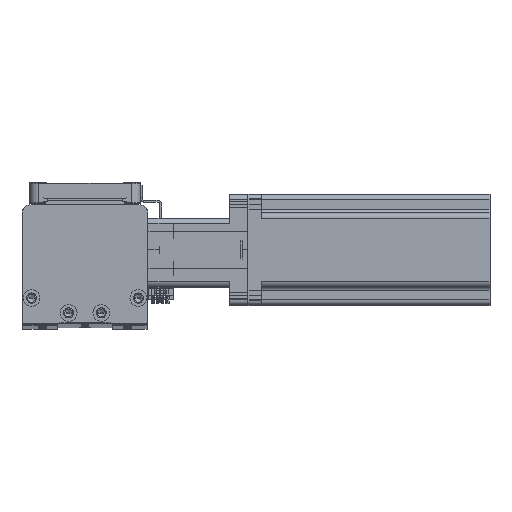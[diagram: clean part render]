
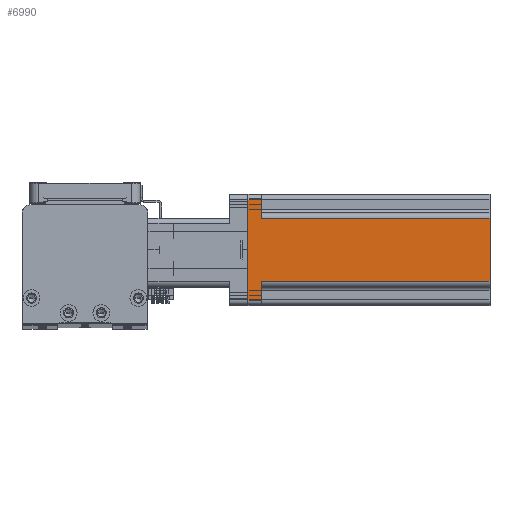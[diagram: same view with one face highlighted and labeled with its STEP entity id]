
A CAD part, top view. The second image highlights one B-rep face of the part: STEP entity #6990.
In plain terms, the highlighted planar face has unit normal (0, 0, 1) as drawn and (1, 0, 0) by its records, which use the part's own axes.
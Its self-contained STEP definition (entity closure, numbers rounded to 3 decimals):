
#543 = CARTESIAN_POINT ( 'NONE',  ( 30., -30., 0. ) ) ;
#794 = DIRECTION ( 'NONE',  ( 0., 0., -1. ) ) ;
#879 = EDGE_CURVE ( 'NONE', #27783, #10276, #29297, .T. ) ;
#897 = DIRECTION ( 'NONE',  ( 0., 0., 1. ) ) ;
#1185 = CARTESIAN_POINT ( 'NONE',  ( 30., -17., 7.5 ) ) ;
#2241 = VECTOR ( 'NONE', #8542, 1000. ) ;
#2499 = ORIENTED_EDGE ( 'NONE', *, *, #21621, .T. ) ;
#4023 = ORIENTED_EDGE ( 'NONE', *, *, #38998, .T. ) ;
#4587 = CARTESIAN_POINT ( 'NONE',  ( 30., 30., 7.5 ) ) ;
#4589 = CARTESIAN_POINT ( 'NONE',  ( 30., -27., 7.5 ) ) ;
#4608 = DIRECTION ( 'NONE',  ( 0., 1., 0. ) ) ;
#4642 = VERTEX_POINT ( 'NONE', #10207 ) ;
#5157 = CARTESIAN_POINT ( 'NONE',  ( 30., -27., 0. ) ) ;
#6990 = ADVANCED_FACE ( 'NONE', ( #20173 ), #31872, .F. ) ;
#7102 = DIRECTION ( 'NONE',  ( 0., -1., 0. ) ) ;
#7521 = VECTOR ( 'NONE', #794, 1000. ) ;
#8542 = DIRECTION ( 'NONE',  ( 0., 1., 0. ) ) ;
#10207 = CARTESIAN_POINT ( 'NONE',  ( 30., -17., 7.5 ) ) ;
#10248 = VERTEX_POINT ( 'NONE', #34967 ) ;
#10276 = VERTEX_POINT ( 'NONE', #19703 ) ;
#10686 = LINE ( 'NONE', #543, #21031 ) ;
#12561 = VERTEX_POINT ( 'NONE', #5157 ) ;
#12964 = LINE ( 'NONE', #49093, #14215 ) ;
#13545 = CARTESIAN_POINT ( 'NONE',  ( 30., 27., 130.7 ) ) ;
#14215 = VECTOR ( 'NONE', #45200, 1000. ) ;
#16503 = VERTEX_POINT ( 'NONE', #49826 ) ;
#17346 = EDGE_CURVE ( 'NONE', #27783, #4642, #29935, .T. ) ;
#17468 = DIRECTION ( 'NONE',  ( 0., 0., 1. ) ) ;
#18994 = VECTOR ( 'NONE', #4608, 1000. ) ;
#19084 = LINE ( 'NONE', #28024, #7521 ) ;
#19703 = CARTESIAN_POINT ( 'NONE',  ( 30., 17., 130.7 ) ) ;
#20173 = FACE_OUTER_BOUND ( 'NONE', #33483, .T. ) ;
#21031 = VECTOR ( 'NONE', #43296, 1000. ) ;
#21519 = CARTESIAN_POINT ( 'NONE',  ( 30., 27., 0. ) ) ;
#21621 = EDGE_CURVE ( 'NONE', #4642, #30724, #31785, .T. ) ;
#22910 = LINE ( 'NONE', #13545, #42397 ) ;
#23881 = VECTOR ( 'NONE', #7102, 1000. ) ;
#24026 = ORIENTED_EDGE ( 'NONE', *, *, #35186, .T. ) ;
#24229 = DIRECTION ( 'NONE',  ( -1., 0., 0. ) ) ;
#24519 = DIRECTION ( 'NONE',  ( 0., 0., -1. ) ) ;
#25216 = ORIENTED_EDGE ( 'NONE', *, *, #17346, .T. ) ;
#27783 = VERTEX_POINT ( 'NONE', #33105 ) ;
#27890 = CARTESIAN_POINT ( 'NONE',  ( 30., -30., 130.7 ) ) ;
#28024 = CARTESIAN_POINT ( 'NONE',  ( 30., -27., 130.7 ) ) ;
#29203 = ORIENTED_EDGE ( 'NONE', *, *, #42096, .F. ) ;
#29297 = LINE ( 'NONE', #27890, #18994 ) ;
#29935 = LINE ( 'NONE', #1185, #40332 ) ;
#30090 = EDGE_CURVE ( 'NONE', #12561, #43808, #10686, .T. ) ;
#30724 = VERTEX_POINT ( 'NONE', #4589 ) ;
#31749 = ORIENTED_EDGE ( 'NONE', *, *, #30090, .T. ) ;
#31785 = LINE ( 'NONE', #38208, #23881 ) ;
#31872 = PLANE ( 'NONE',  #33587 ) ;
#33105 = CARTESIAN_POINT ( 'NONE',  ( 30., -17., 130.7 ) ) ;
#33483 = EDGE_LOOP ( 'NONE', ( #44362, #25216, #2499, #4023, #31749, #24026, #29203, #46277 ) ) ;
#33587 = AXIS2_PLACEMENT_3D ( 'NONE', #47602, #24229, #897 ) ;
#34550 = LINE ( 'NONE', #4587, #2241 ) ;
#34967 = CARTESIAN_POINT ( 'NONE',  ( 30., 17., 7.5 ) ) ;
#35186 = EDGE_CURVE ( 'NONE', #43808, #16503, #22910, .T. ) ;
#38208 = CARTESIAN_POINT ( 'NONE',  ( 30., -30., 7.5 ) ) ;
#38998 = EDGE_CURVE ( 'NONE', #30724, #12561, #19084, .T. ) ;
#40332 = VECTOR ( 'NONE', #24519, 1000. ) ;
#42096 = EDGE_CURVE ( 'NONE', #10248, #16503, #34550, .T. ) ;
#42397 = VECTOR ( 'NONE', #17468, 1000. ) ;
#43296 = DIRECTION ( 'NONE',  ( 0., 1., 0. ) ) ;
#43808 = VERTEX_POINT ( 'NONE', #21519 ) ;
#43865 = EDGE_CURVE ( 'NONE', #10248, #10276, #12964, .T. ) ;
#44362 = ORIENTED_EDGE ( 'NONE', *, *, #879, .F. ) ;
#45200 = DIRECTION ( 'NONE',  ( 0., 0., 1. ) ) ;
#46277 = ORIENTED_EDGE ( 'NONE', *, *, #43865, .T. ) ;
#47602 = CARTESIAN_POINT ( 'NONE',  ( 30., -30., 130.7 ) ) ;
#49093 = CARTESIAN_POINT ( 'NONE',  ( 30., 17., 130.7 ) ) ;
#49826 = CARTESIAN_POINT ( 'NONE',  ( 30., 27., 7.5 ) ) ;
